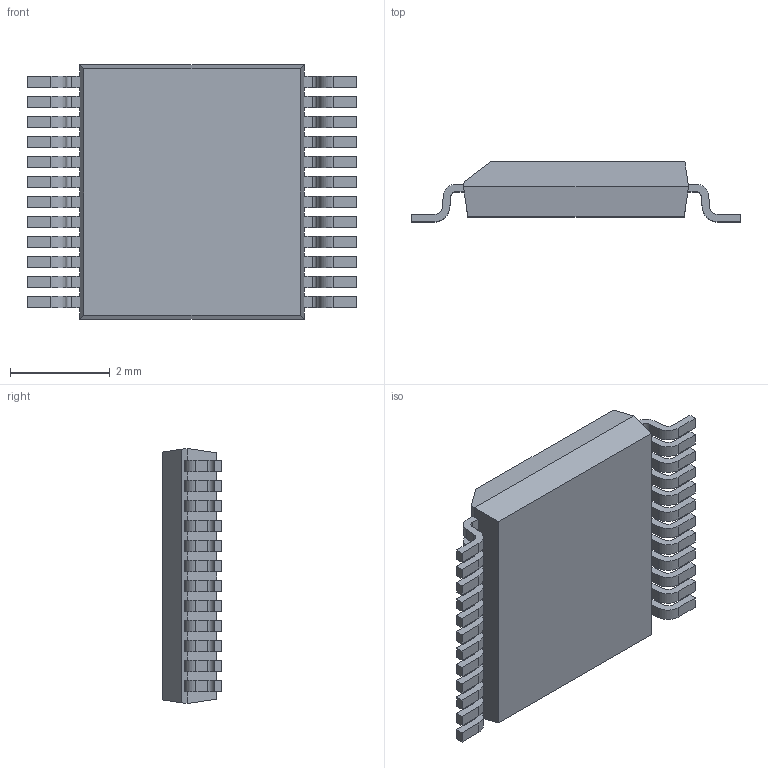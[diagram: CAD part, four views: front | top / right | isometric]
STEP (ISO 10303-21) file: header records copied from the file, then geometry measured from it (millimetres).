
FILE_DESCRIPTION (( 'STEP AP214' ), '1' );
FILE_NAME ('TSSOP40P640X120-24_MO-153.CA.STEP', '2014-10-29T08:23:23', ( 'Tester2' ), ( '' ), 'SwSTEP 2.0', 'SolidWorks 2012', '' );
FILE_SCHEMA (( 'AUTOMOTIVE_DESIGN' ));
Length unit declared in the file: millimetre
Products named in the file (1): TSSOP40P640X120-24_MO-153.CA
Bounding box: 6.6 x 1.2 x 5.1 mm (x, y, z)
Volume: 25.2 mm3; surface area: 89.6 mm2
Topology: 1 solids, 1 shells, 326 faces, 965 edges, 642 vertices
Faces by surface type: plane 228, cylinder 98
Entity records: 14352 total; most frequent: CARTESIAN_POINT 1934, ORIENTED_EDGE 1930, DIRECTION 1815, EDGE_CURVE 965, LINE 769, VECTOR 769, VERTEX_POINT 642, AXIS2_PLACEMENT_3D 523
